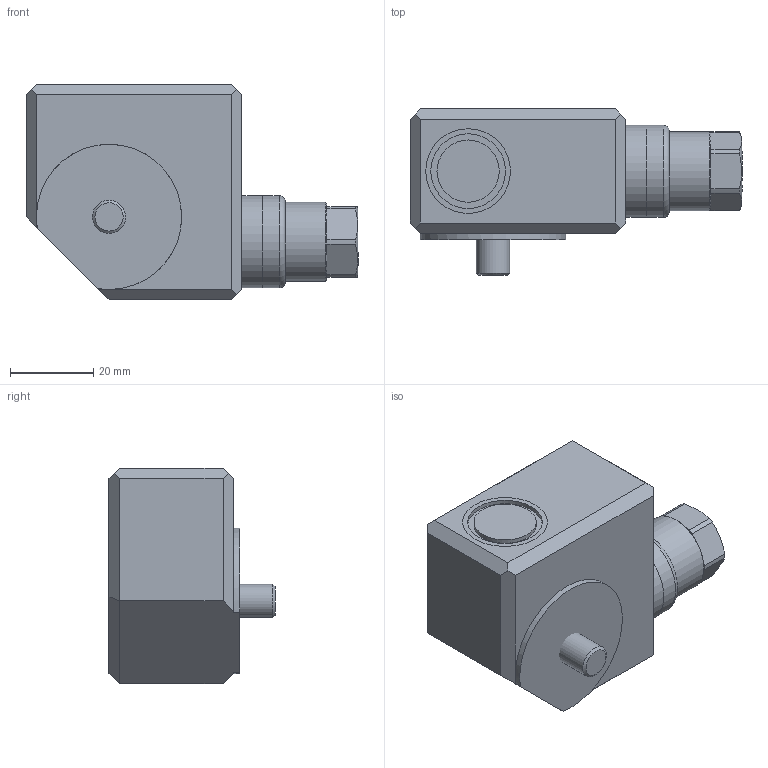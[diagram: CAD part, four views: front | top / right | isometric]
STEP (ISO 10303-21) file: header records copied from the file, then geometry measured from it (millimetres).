
FILE_DESCRIPTION(/* description */ (''),/* implementation_level */ '2;1');
FILE_NAME(/* name */ 'Z:\Engineering\Drawings\3D Library\Assemblies\Website\420 Triaxial Velocity\HS-473XXX4308.stp',/* time_stamp */ '2023-05-09T21:42:40+01:00',/* author */ ('Ricardo.Peneda'),/* organization */ (''),/* preprocessor_version */ 'ST-DEVELOPER v18.1',/* originating_system */ 'Autodesk Inventor 2021',/* authorisation */ '');
FILE_SCHEMA (('AUTOMOTIVE_DESIGN { 1 0 10303 214 3 1 1 }'));
Length unit declared in the file: inch
Products named in the file (1): HS-473XXX4308_Shrinkwrap_1
Bounding box: 79.98 x 40 x 52 mm (x, y, z)
Volume: 57716.1 mm3; surface area: 23473 mm2
Topology: 6 solids, 6 shells, 105 faces, 267 edges, 194 vertices
Faces by surface type: plane 64, cylinder 33, cone 6, torus 2
Full cylindrical faces by diameter (mm): 6 x1, 6.4 x1, 8 x1, 9 x1, 11 x1, 11.647 x1, 12 x1, 13.882 x1, 15 x4, 18 x3, 19 x1, 19.95 x1, 20 x3, 20.4 x4, 22.2 x2
Entity records: 3476 total; most frequent: DIRECTION 611, CARTESIAN_POINT 597, ORIENTED_EDGE 534, EDGE_CURVE 267, AXIS2_PLACEMENT_3D 244, VERTEX_POINT 194, CIRCLE 138, EDGE_LOOP 131
